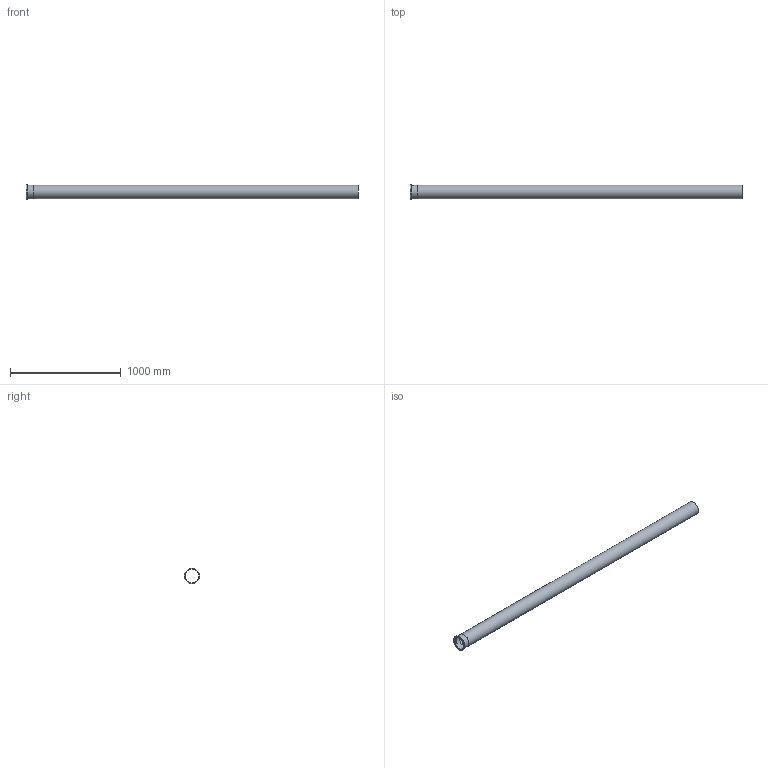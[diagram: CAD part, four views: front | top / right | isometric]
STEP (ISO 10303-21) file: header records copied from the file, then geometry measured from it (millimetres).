
FILE_DESCRIPTION((''),'2;1');
FILE_NAME('I:\WATTS\3D_CAD\3D_CAD_Models\Blucher_Drains\P_StraightPipe\WebsiteFiles\3D\STEP\P5-9.8-316.stp','2009-12-02T14:30:01',('menesek'),(''),'Autodesk Inventor 2010','Autodesk Inventor 2010','');
FILE_SCHEMA(('AUTOMOTIVE_DESIGN { 1 0 10303 214 1 1 1 1 }'));
Length unit declared in the file: inch
Products named in the file (1): P5-9.8-316
Bounding box: 3000 x 139.95 x 139.95 mm (x, y, z)
Volume: 1218376.7 mm3; surface area: 2344065.6 mm2
Topology: 1 solids, 1 shells, 109 faces, 285 edges, 190 vertices
Faces by surface type: plane 59, bspline 34, cylinder 16
Full cylindrical faces by diameter (mm): 122.936 x1, 124.968 x1, 125.984 x2, 139.954 x1
Entity records: 13939 total; most frequent: CARTESIAN_POINT 11561, ORIENTED_EDGE 548, DIRECTION 356, EDGE_CURVE 274, VERTEX_POINT 186, EDGE_LOOP 128, AXIS2_PLACEMENT_3D 120, VECTOR 116
